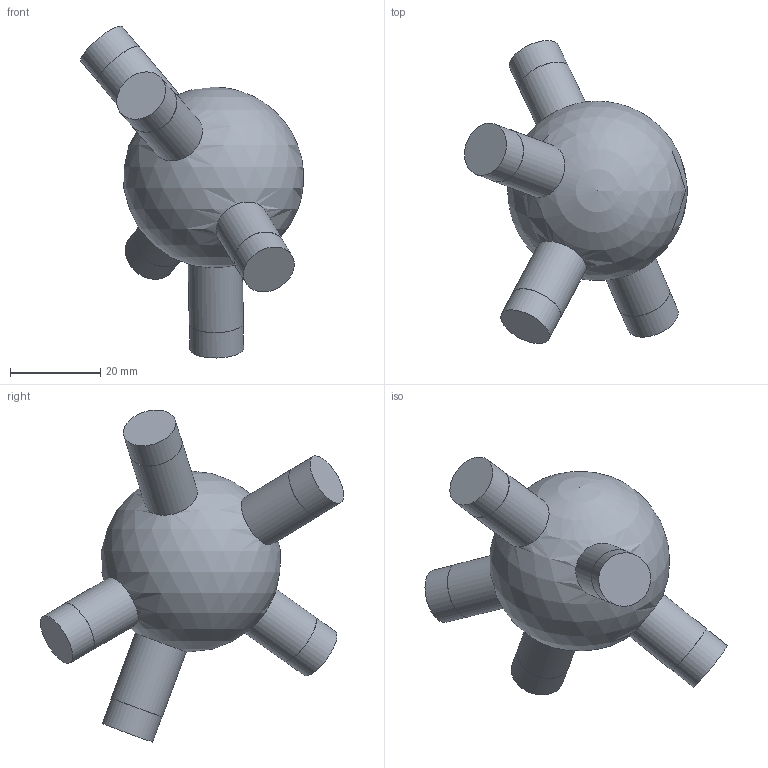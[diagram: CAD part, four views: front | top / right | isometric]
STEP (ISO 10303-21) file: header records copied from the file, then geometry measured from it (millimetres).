
FILE_DESCRIPTION(('Open CASCADE Model'),'2;1');
FILE_NAME('Open CASCADE Shape Model','2026-10-21T12:47:57',('Author'),( 'Open CASCADE'),'Open CASCADE STEP processor 7.9','Open CASCADE 7.9' ,'Unknown');
FILE_SCHEMA(('AUTOMOTIVE_DESIGN { 1 0 10303 214 1 1 1 1 }'));
Length unit declared in the file: millimetre
Products named in the file (1): Open CASCADE STEP translator 7.9 72
Bounding box: 49.39 x 67.16 x 73.54 mm (x, y, z)
Volume: 44246.6 mm3; surface area: 8688.8 mm2
Topology: 1 solids, 1 shells, 21 faces, 33 edges, 22 vertices
Faces by surface type: cylinder 10, plane 10, sphere 1
Full cylindrical faces by diameter (mm): 11.9 x5, 12 x5
Entity records: 1276 total; most frequent: CARTESIAN_POINT 551, DIRECTION 149, ORIENTED_EDGE 60, PCURVE 60, DEFINITIONAL_REPRESENTATION 60, LINE 50, VECTOR 50, AXIS2_PLACEMENT_3D 42
